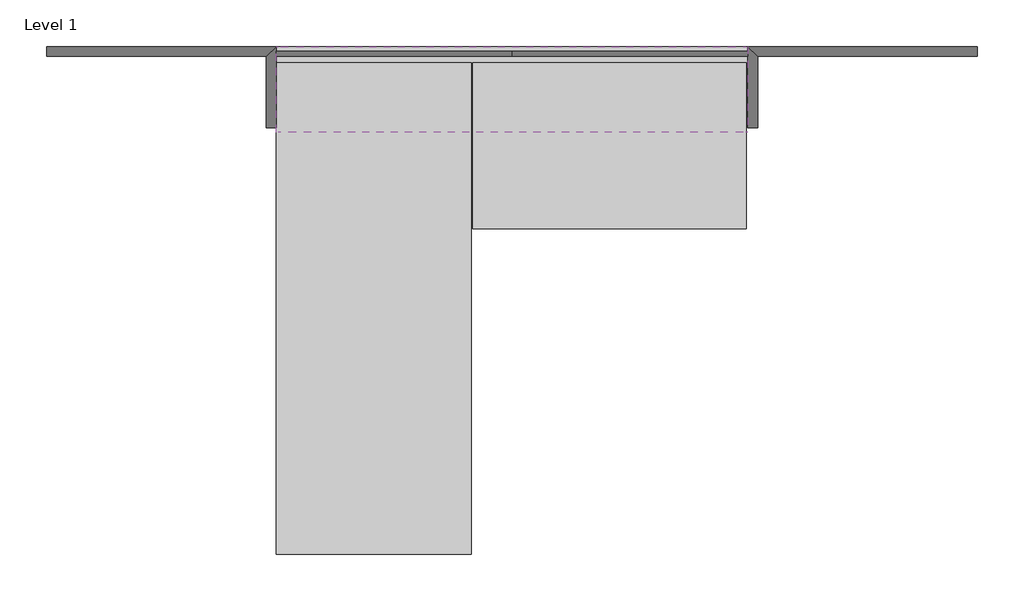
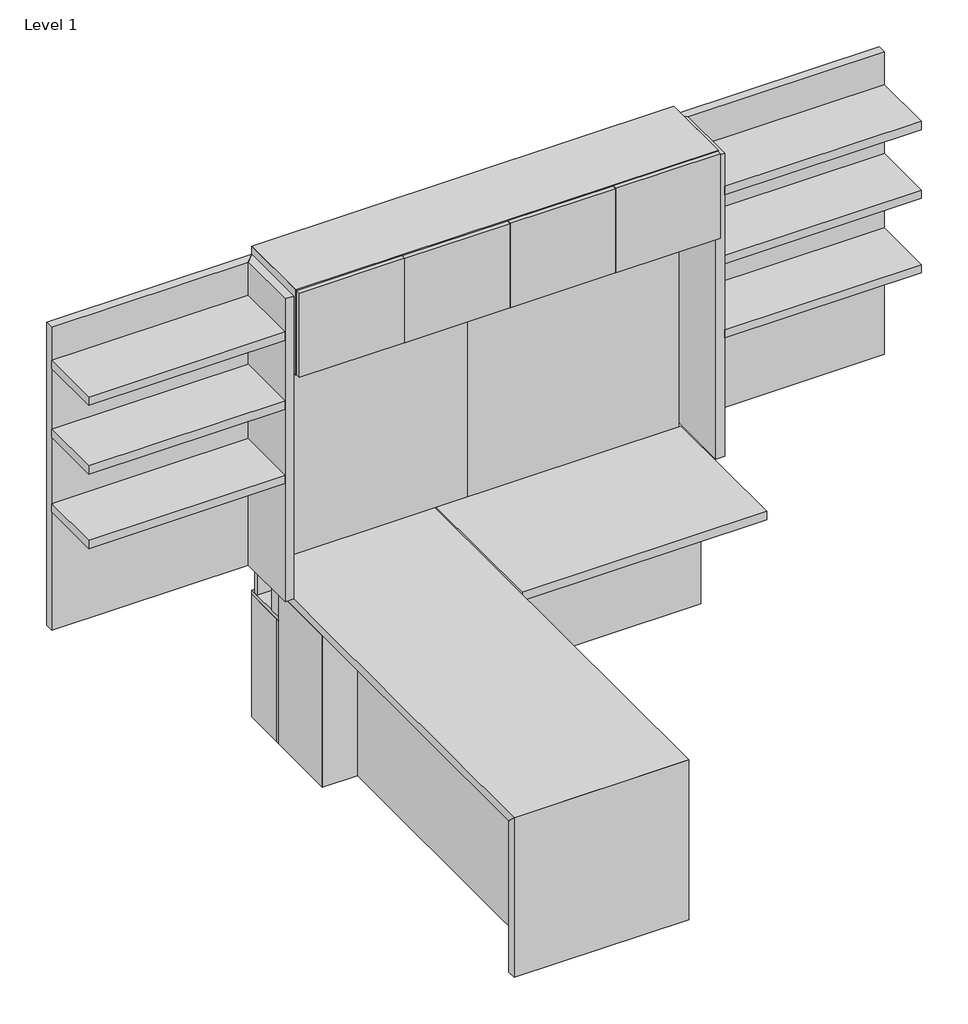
# One storey, incomplete: 11 proxies.
"""IFC4 building model written with IfcOpenShell, lengths in millimetres."""

from ifc_helpers import new_model, si_unit, origin, place, context, project, spatial, transform, mapped, element, save
from components import generic_models_ccaae10d, generic_models_bcdf64a1, generic_models_ddd470e9, generic_models_b7273189, generic_models_cede4d66, generic_models_25f49ef9, generic_models_d89a80fd, generic_models_34792bcb, generic_models_0a960df9, generic_models_b7e8ac60

model = new_model("IFC4")

# Units and contexts
model_context = context("Model", 3, world=origin())
ifc_project = project(units=[si_unit("LENGTHUNIT", "METRE", prefix="MILLI")], contexts=[model_context])

# Site, building, storey
site = spatial("IfcSite", under=ifc_project)
building = spatial("IfcBuilding", under=site)
storey = spatial("IfcBuildingStorey", under=building, Name="Level 1", Elevation=0.0)

# Proxies
placement = place(None, origin())
generic_models_shape = generic_models_ccaae10d(model_context)
element("IfcBuildingElementProxy", 1, Name="FOUNDATION^PO5_DESK-PARTS SOLID", ObjectType="FOUNDATION^PO5_DESK-PARTS SOLID", at=placement, inside=storey, context=model_context, shape_type="MappedRepresentation", body=[
    mapped(generic_models_shape, transform((0.0, -1981.2, 0.0), x_axis=(0.0, 1.0, 0.0), y_axis=(0.0, 0.0, 1.0), z_axis=(1.0, 0.0, 0.0))),
])
generic_models_2_shape = generic_models_bcdf64a1(model_context)
element("IfcBuildingElementProxy", 2, Name="FOUNDATION^PO5_CORNER SHELVES RT-PARTS SOLID", ObjectType="FOUNDATION^PO5_CORNER SHELVES RT-PARTS SOLID", at=placement, inside=storey, context=model_context, shape_type="MappedRepresentation", body=[
    mapped(generic_models_2_shape, transform((1841.5, -38.1, 736.6), x_axis=(1.0, 0.0, 0.0), y_axis=(0.0, 0.0, 1.0), z_axis=(0.0, -1.0, 0.0))),
])
generic_models_3_shape = generic_models_ddd470e9(model_context)
element("IfcBuildingElementProxy", 3, Name="SS LIFT ANGLE_18_RT_OMT_LINAK (NEW)", ObjectType="SS LIFT ANGLE_18_RT_OMT_LINAK (NEW)", at=placement, inside=storey, context=model_context, shape_type="MappedRepresentation", body=[
    mapped(generic_models_3_shape, transform((1684.15, -93.1227, 698.5), x_axis=(0.0, -1.0, 0.0), y_axis=(0.0, 0.0, 1.0), z_axis=(-1.0, 0.0, 0.0))),
])
generic_models_4_shape = generic_models_b7273189(model_context)
element("IfcBuildingElementProxy", 4, Name="SS LIFT ANGLE_18_LT_OMT_LINAK (NEW)", ObjectType="SS LIFT ANGLE_18_LT_OMT_LINAK (NEW)", at=placement, inside=storey, context=model_context, shape_type="MappedRepresentation", body=[
    mapped(generic_models_4_shape, transform((919.35, -93.1227, 698.5), x_axis=(0.0, -1.0, 0.0), y_axis=(0.0, 0.0, 1.0), z_axis=(-1.0, 0.0, 0.0))),
])
generic_models_5_shape = generic_models_cede4d66(model_context)
element("IfcBuildingElementProxy", 5, Name="FOUNDATION^PO5_WALL HUNG TACKBOARD-PARTS SOLID", ObjectType="FOUNDATION^PO5_WALL HUNG TACKBOARD-PARTS SOLID", at=placement, inside=storey, context=model_context, shape_type="MappedRepresentation", body=[
    mapped(generic_models_5_shape, transform((920.75, -19.05, 584.99375), x_axis=(1.0, 0.0, 0.0), y_axis=(0.0, 0.0, 1.0), z_axis=(0.0, -1.0, 0.0))),
])
element("IfcBuildingElementProxy", 6, Name="FOUNDATION^PO5_WALL HUNG TACKBOARD-PARTS SOLID", ObjectType="FOUNDATION^PO5_WALL HUNG TACKBOARD-PARTS SOLID", at=placement, inside=storey, context=model_context, shape_type="MappedRepresentation", body=[
    mapped(generic_models_5_shape, transform((0.79375, -19.05, 584.99375), x_axis=(1.0, 0.0, 0.0), y_axis=(0.0, 0.0, 1.0), z_axis=(0.0, -1.0, 0.0))),
])
generic_models_6_shape = generic_models_25f49ef9(model_context)
element("IfcBuildingElementProxy", 7, Name="FOUNDATION^PO5_WALL HUNG STORAGE-PARTS SOLID", ObjectType="FOUNDATION^PO5_WALL HUNG STORAGE-PARTS SOLID", at=placement, inside=storey, context=model_context, shape_type="MappedRepresentation", body=[
    mapped(generic_models_6_shape, transform((1822.45, 0.0, 1778.0), x_axis=(1.0, 0.0, 0.0), y_axis=(0.0, 0.0, 1.0), z_axis=(0.0, -1.0, 0.0))),
])
generic_models_7_shape = generic_models_d89a80fd(model_context)
element("IfcBuildingElementProxy", 8, Name="FOUNDATION^PO5_WIRE WALL-WORKSURFACE", ObjectType="FOUNDATION^PO5_WIRE WALL-WORKSURFACE", at=placement, inside=storey, context=model_context, shape_type="MappedRepresentation", body=[
    mapped(generic_models_7_shape, transform((768.35, -63.5, 698.5), x_axis=(1.0, 0.0, 0.0), y_axis=(0.0, 0.0, 1.0), z_axis=(0.0, -1.0, 0.0))),
])
generic_models_8_shape = generic_models_34792bcb(model_context)
element("IfcBuildingElementProxy", 9, Name="FOUNDATION^PO5_WIRE WALL-PARTS SOLID", ObjectType="FOUNDATION^PO5_WIRE WALL-PARTS SOLID", at=placement, inside=storey, context=model_context, shape_type="MappedRepresentation", body=[
    mapped(generic_models_8_shape, transform((0.0, 0.0, 584.2), x_axis=(1.0, 0.0, 0.0), y_axis=(0.0, 0.0, 1.0), z_axis=(0.0, -1.0, 0.0))),
])
generic_models_9_shape = generic_models_0a960df9(model_context)
element("IfcBuildingElementProxy", 10, Name="H-MP-TUBE1", ObjectType="H-MP-TUBE1", at=placement, inside=storey, context=model_context, shape_type="MappedRepresentation", body=[
    mapped(generic_models_9_shape, transform((1329.7, -133.35, 139.7), x_axis=(0.0, 1.0, 0.0), y_axis=(0.0, 0.0, 1.0), z_axis=(1.0, 0.0, 0.0))),
])
generic_models_10_shape = generic_models_b7e8ac60(model_context)
element("IfcBuildingElementProxy", 11, Name="FOUNDATION^PO5_CORNER SHELVES LT-PARTS SOLID", ObjectType="FOUNDATION^PO5_CORNER SHELVES LT-PARTS SOLID", at=placement, inside=storey, context=model_context, shape_type="MappedRepresentation", body=[
    mapped(generic_models_10_shape, transform((-895.35, 0.0, 736.6), x_axis=(1.0, 0.0, 0.0), y_axis=(0.0, 0.0, 1.0), z_axis=(0.0, -1.0, 0.0))),
])

save(model, "model.ifc")
